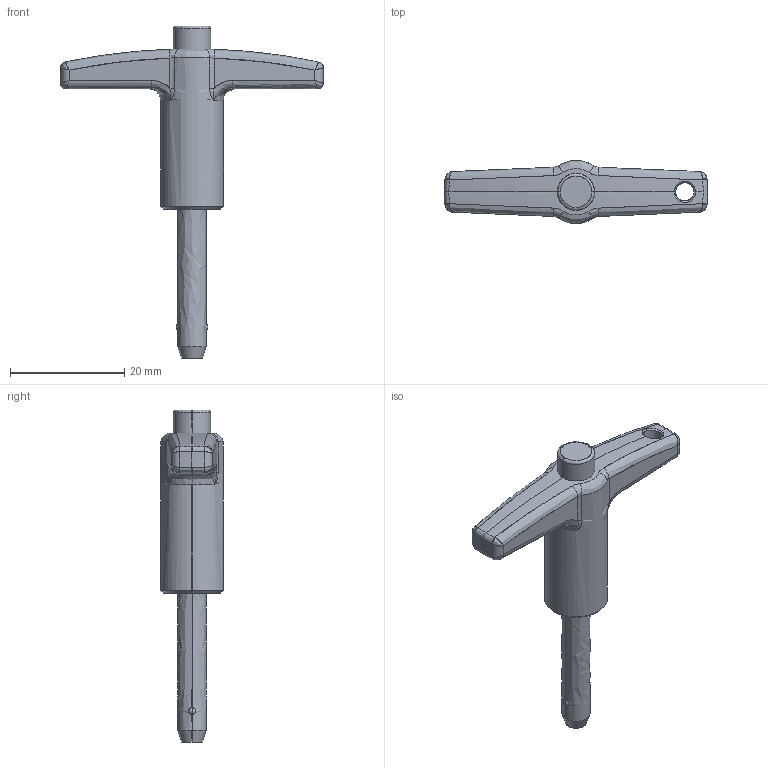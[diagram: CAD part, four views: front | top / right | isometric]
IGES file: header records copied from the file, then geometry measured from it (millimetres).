
Start section: SolidWorks IGES file using analytic representation for surfaces
Global section: file name: X:\11_SW2020-Inv2020\00_全2021-11新製品まで\b\BJ773-05020-SUS\bj773-05020-sus.IGS; native system: SolidWorks 2020; preprocessor: SolidWorks 2020; author: ImaoCorp; date: 211025.092201; units: millimetre
Bounding box: 45.99 x 11 x 58 mm (x, y, z)
Surface area: 2472.3 mm2 (no closed solid volume)
Topology: 0 solids, 0 shells, 91 faces, 877 edges, 866 vertices
Faces by surface type: bspline 56, revolution 35
